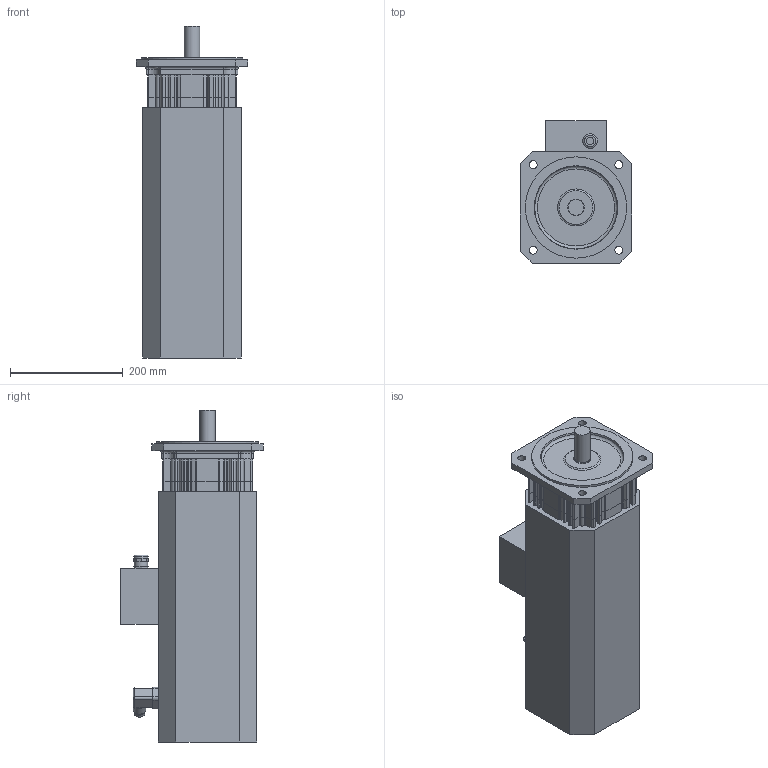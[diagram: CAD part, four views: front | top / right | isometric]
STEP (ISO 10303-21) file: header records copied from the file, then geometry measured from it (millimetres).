
FILE_DESCRIPTION(/* description */ (''),/* implementation_level */ '2;1');
FILE_NAME(/* name */ 'KSA8416_MC_FS',/* time_stamp */ '2009-03-02T10:06:09+01:00',/* author */ (''),/* organization */ (''),/* preprocessor_version */ 'ST-DEVELOPER v8',/* originating_system */ 'UNIGRAPHICS SOLUTIONS - UNIGRAPHICS 18.0',/* authorisation */ '');
FILE_SCHEMA (('AUTOMOTIVE_DESIGN { 1 2 10303 214 0 1 1 1 }'));
Length unit declared in the file: millimetre
Products named in the file (7): 0280391600_0; 014146_0; 014145_0; Lagersch_8AS_0; 089107X_0; SK3958_0; KSA8412_MC_FS_0
Assembly tree (6 placements, depth 3):
  KSA8412_MC_FS_0
    089107X_0
    Lagersch_8AS_0
    SK3958_0
      0280391600_0
    014145_0
    014146_0
Bounding box: 198 x 253.35 x 590 mm (x, y, z)
Volume: 14807144 mm3; surface area: 660556.5 mm2
Topology: 7 solids, 7 shells, 626 faces, 1728 edges, 1132 vertices
Faces by surface type: cylinder 313, plane 281, torus 16, cone 8, bspline 4, sphere 4
Full cylindrical faces by diameter (mm): 3.2 x1, 3.5 x4, 4.5 x1, 5 x1, 6.5 x4, 10 x1, 13 x2, 14 x4, 17 x1, 20 x2, 22.5 x1, 24 x1, 26 x1, 28 x1, 30 x1, 149.6 x2, 151 x1, 180 x1
Entity records: 20149 total; most frequent: DIRECTION 3598, CARTESIAN_POINT 3560, ORIENTED_EDGE 3352, EDGE_CURVE 1676, AXIS2_PLACEMENT_3D 1309, VERTEX_POINT 1122, LINE 980, VECTOR 980
